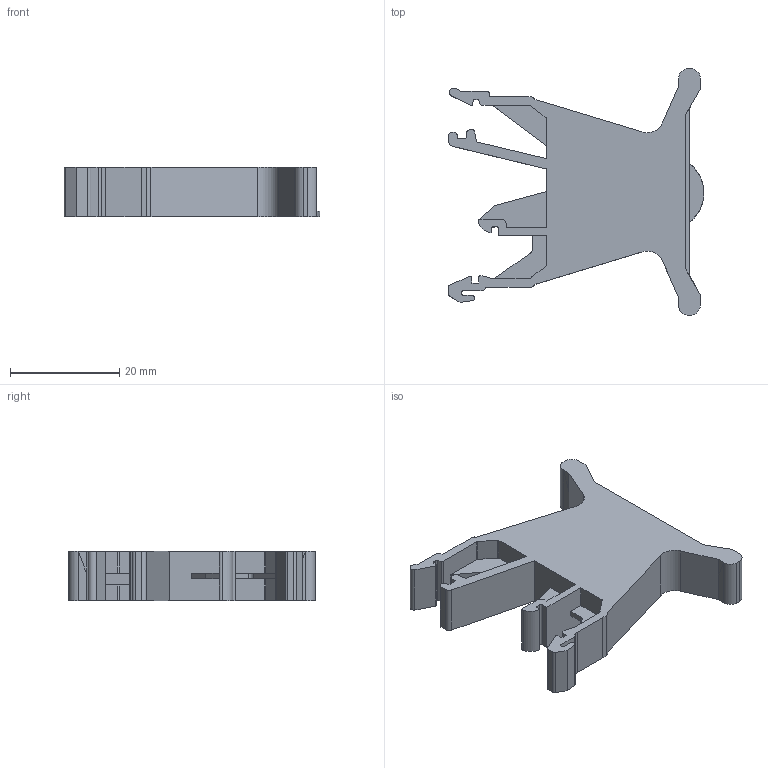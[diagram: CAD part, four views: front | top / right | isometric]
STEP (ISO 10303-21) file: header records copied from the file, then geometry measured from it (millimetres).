
FILE_DESCRIPTION( ('This file contains a STEP AP42 implementation' ,'as created by ZW3D STEP Interface translator.') ,'2;1' );
FILE_NAME( 'EBU梓暮釱.stp' ,'24 726.15 027', (''), ('ZWCAD Software Co.'), 'Version 1.0', 'ZW3D to STEP translator', '' );
FILE_SCHEMA(('AUTOMOTIVE_DESIGN { 1 0 10303 214 1 1 1 1 }'));
Length unit declared in the file: millimetre
Products named in the file (2): 0; UBE梓暮釱-耀倰
Bounding box: 46.75 x 45.04 x 9 mm (x, y, z)
Volume: 8046 mm3; surface area: 4870.3 mm2
Topology: 1 solids, 1 shells, 145 faces, 424 edges, 281 vertices
Faces by surface type: plane 100, cylinder 45
Entity records: 4989 total; most frequent: CARTESIAN_POINT 883, ORIENTED_EDGE 848, DIRECTION 804, EDGE_CURVE 424, VECTOR 328, LINE 328, VERTEX_POINT 281, AXIS2_PLACEMENT_3D 238
